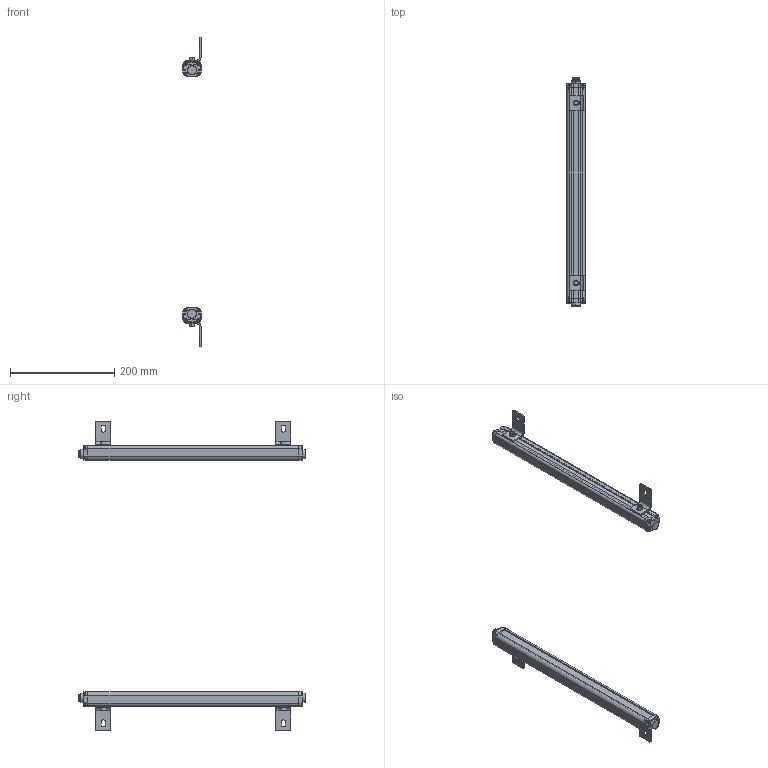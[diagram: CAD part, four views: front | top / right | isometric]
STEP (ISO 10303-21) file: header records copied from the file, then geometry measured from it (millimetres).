
FILE_DESCRIPTION (( 'STEP AP214' ), '1' );
FILE_NAME ('elg1040.STEP', '2018-03-07T03:00:59', ( '' ), ( '' ), 'SwSTEP 2.0', 'SolidWorks 2017', '' );
FILE_SCHEMA (( 'AUTOMOTIVE_DESIGN' ));
Length unit declared in the file: millimetre
Products named in the file (11): czzj-1040; glgdg-1040; lx-1040; elg1040; hk-1040; bz1-1040; elgw-1040; hkct1-1040; dlx-1040; lgp-1040; elgdg03-1040
Assembly tree (40 placements, depth 2):
  elg1040
    elgw-1040  x2
    bz1-1040  x2
    lgp-1040  x2
    glgdg-1040  x2
    elgdg03-1040  x2
    hkct1-1040  x2
    lx-1040  x16
    hk-1040  x4
    czzj-1040  x4
    dlx-1040  x4
Bounding box: 34.7 x 437.6 x 594 mm (x, y, z)
Volume: 324795.4 mm3; surface area: 336474 mm2
Topology: 40 solids, 40 shells, 2080 faces, 5456 edges, 3496 vertices
Faces by surface type: cylinder 992, plane 688, bspline 400
Entity records: 141905 total; most frequent: CARTESIAN_POINT 127778, ORIENTED_EDGE 2996, DIRECTION 2630, EDGE_CURVE 1498, VERTEX_POINT 964, AXIS2_PLACEMENT_3D 941, LINE 748, VECTOR 748
